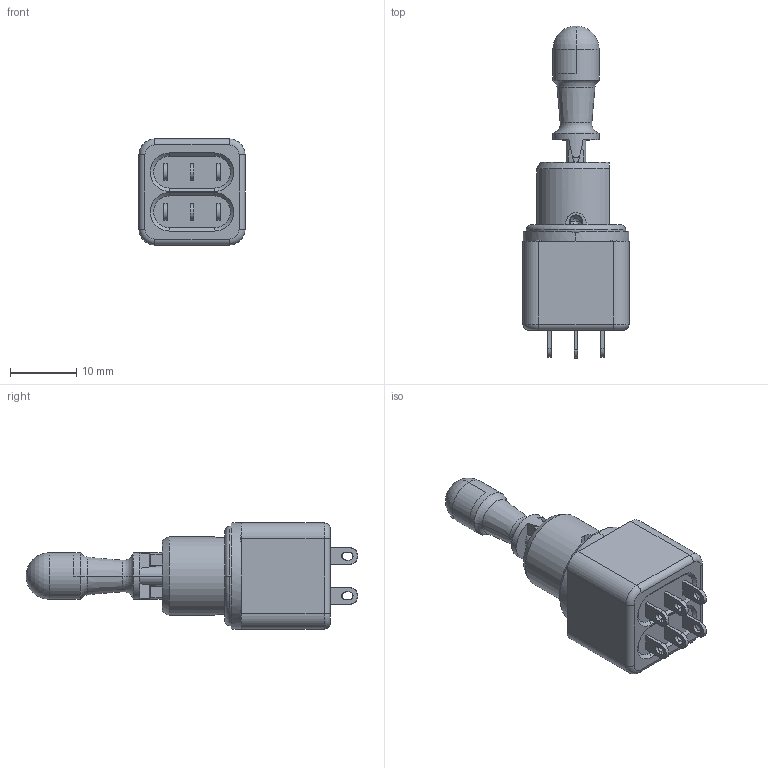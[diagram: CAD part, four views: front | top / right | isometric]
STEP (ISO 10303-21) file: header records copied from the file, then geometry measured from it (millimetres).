
FILE_DESCRIPTION((''),'2;1');
FILE_NAME('12149-3VX778','2009-11-13T',('francis'),(''),'PRO/ENGINEER BY PARAMETRIC TECHNOLOGY CORPORATION, 2008400','PRO/ENGINEER BY PARAMETRIC TECHNOLOGY CORPORATION, 2008400','');
FILE_SCHEMA(('CONFIG_CONTROL_DESIGN'));
Length unit declared in the file: millimetre
Products named in the file (1): 12149-3VX778
Bounding box: 16 x 50.1 x 16 mm (x, y, z)
Volume: 2743.9 mm3; surface area: 5711.2 mm2
Topology: 2 solids, 2 shells, 689 faces, 1935 edges, 1255 vertices
Faces by surface type: plane 482, cylinder 144, cone 33, torus 18, sphere 12
Entity records: 22852 total; most frequent: CARTESIAN_POINT 4853, ORIENTED_EDGE 3858, DIRECTION 3606, EDGE_CURVE 1929, VECTOR 1434, LINE 1434, VERTEX_POINT 1255, AXIS2_PLACEMENT_3D 1086
